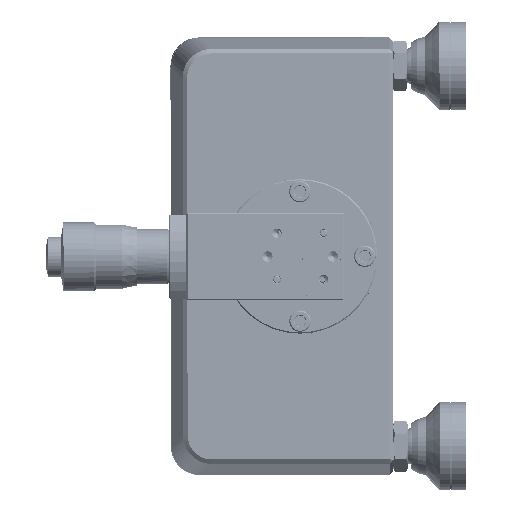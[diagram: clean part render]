
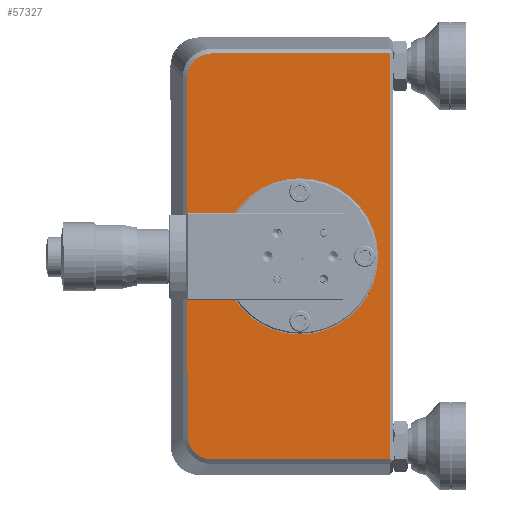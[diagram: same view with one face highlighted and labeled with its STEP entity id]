
A CAD part, left-side view. The second image highlights one B-rep face of the part: STEP entity #57327.
In plain terms, the highlighted planar face has unit normal (-1, -0.002, -0.001).
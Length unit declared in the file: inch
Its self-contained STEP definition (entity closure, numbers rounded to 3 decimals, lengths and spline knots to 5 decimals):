
#6030 = CARTESIAN_POINT ( 'NONE',  ( -0.09451, -6.66181, -1.31774 ) ) ;
#6185 = DIRECTION ( 'NONE',  ( -0.002, 1., -0.001 ) ) ;
#9307 = DIRECTION ( 'NONE',  ( -1., -0.002, -0.001 ) ) ;
#11480 = CARTESIAN_POINT ( 'NONE',  ( -0.09532, -6.68593, 0.31891 ) ) ;
#14881 = CARTESIAN_POINT ( 'NONE',  ( -0.09532, -6.65979, 0.24096 ) ) ;
#18027 = CIRCLE ( 'NONE', #209111, 0.67 ) ;
#18179 = AXIS2_PLACEMENT_3D ( 'NONE', #111873, #9307, #315442 ) ;
#22230 = EDGE_LOOP ( 'NONE', ( #308823, #257947 ) ) ;
#25196 = CARTESIAN_POINT ( 'NONE',  ( -0.09089, -8.39914, -3.05557 ) ) ;
#32054 = DIRECTION ( 'NONE',  ( 1., 0.002, 0.001 ) ) ;
#34291 = DIRECTION ( 'NONE',  ( -0.001, 0.001, 1. ) ) ;
#40050 = CIRCLE ( 'NONE', #18179, 0.67 ) ;
#40489 = CARTESIAN_POINT ( 'NONE',  ( -0.09533, -6.66519, 0.26841 ) ) ;
#40699 = VERTEX_POINT ( 'NONE', #206312 ) ;
#54523 = CARTESIAN_POINT ( 'NONE',  ( -0.09372, -6.6638, -2.8489 ) ) ;
#54963 = EDGE_CURVE ( 'NONE', #165470, #283098, #295039, .T. ) ;
#56577 = CARTESIAN_POINT ( 'NONE',  ( -0.0918, -8.39689, -1.31549 ) ) ;
#57327 = ADVANCED_FACE ( 'NONE', ( #81655, #80001 ), #269921, .F. ) ;
#67875 = CARTESIAN_POINT ( 'NONE',  ( -0.09509, -6.86848, 0.42261 ) ) ;
#72476 = CARTESIAN_POINT ( 'NONE',  ( -0.09266, -7.62776, -1.98649 ) ) ;
#74966 = VERTEX_POINT ( 'NONE', #117696 ) ;
#80001 = FACE_BOUND ( 'NONE', #22230, .T. ) ;
#80200 = CARTESIAN_POINT ( 'NONE',  ( -0.09368, -6.6693, -2.90388 ) ) ;
#81655 = FACE_OUTER_BOUND ( 'NONE', #255556, .T. ) ;
#83075 = EDGE_CURVE ( 'NONE', #74966, #165470, #145648, .T. ) ;
#83541 = CARTESIAN_POINT ( 'NONE',  ( -0.0937, -6.66383, -2.87638 ) ) ;
#85980 = CARTESIAN_POINT ( 'NONE',  ( -0.09531, -6.65983, 0.21342 ) ) ;
#91770 = CARTESIAN_POINT ( 'NONE',  ( -0.09514, -6.84099, 0.42257 ) ) ;
#105694 = CARTESIAN_POINT ( 'NONE',  ( -0.09324, -7.47689, -1.31668 ) ) ;
#110052 = B_SPLINE_CURVE_WITH_KNOTS ( 'NONE', 3,
 ( #54523, #83541, #80200, #314504, #160546, #187919, #136528, #158837, #292320, #110915 ),
 .UNSPECIFIED., .F., .F.,
 ( 4, 2, 2, 2, 4 ),
 ( 0., 0.25, 0.5, 0.75, 1. ),
 .UNSPECIFIED. ) ;
#110915 = CARTESIAN_POINT ( 'NONE',  ( -0.09328, -6.87299, -3.05755 ) ) ;
#111873 = CARTESIAN_POINT ( 'NONE',  ( -0.093, -7.62689, -1.31649 ) ) ;
#112756 = VECTOR ( 'NONE', #333080, 39.37008 ) ;
#117644 = EDGE_CURVE ( 'NONE', #40699, #318909, #40050, .T. ) ;
#117696 = CARTESIAN_POINT ( 'NONE',  ( -0.09509, -6.86848, 0.42261 ) ) ;
#119415 = CARTESIAN_POINT ( 'NONE',  ( -0.09233, -7.47915, -3.05676 ) ) ;
#124481 = LINE ( 'NONE', #119415, #112756 ) ;
#132113 = EDGE_CURVE ( 'NONE', #235308, #336761, #241410, .T. ) ;
#136528 = CARTESIAN_POINT ( 'NONE',  ( -0.09346, -6.7675, -3.03145 ) ) ;
#136662 = ORIENTED_EDGE ( 'NONE', *, *, #132113, .T. ) ;
#138957 = ORIENTED_EDGE ( 'NONE', *, *, #83075, .T. ) ;
#142388 = VERTEX_POINT ( 'NONE', #187947 ) ;
#145648 = B_SPLINE_CURVE_WITH_KNOTS ( 'NONE', 3,
 ( #67875, #91770, #197812, #172069, #303815, #245916, #11480, #40489, #14881, #324406 ),
 .UNSPECIFIED., .F., .F.,
 ( 4, 2, 2, 2, 4 ),
 ( 0., 0.25, 0.5, 0.75, 1. ),
 .UNSPECIFIED. ) ;
#158837 = CARTESIAN_POINT ( 'NONE',  ( -0.09337, -6.81799, -3.05219 ) ) ;
#160546 = CARTESIAN_POINT ( 'NONE',  ( -0.09358, -6.70569, -2.97754 ) ) ;
#165470 = VERTEX_POINT ( 'NONE', #85980 ) ;
#172069 = CARTESIAN_POINT ( 'NONE',  ( -0.09524, -6.76305, 0.39624 ) ) ;
#179794 = ORIENTED_EDGE ( 'NONE', *, *, #212931, .T. ) ;
#187288 = DIRECTION ( 'NONE',  ( 0.001, -0.001, -1. ) ) ;
#187449 = LINE ( 'NONE', #240596, #274338 ) ;
#187919 = CARTESIAN_POINT ( 'NONE',  ( -0.0935, -6.74424, -3.01599 ) ) ;
#187947 = CARTESIAN_POINT ( 'NONE',  ( -0.09328, -6.87299, -3.05755 ) ) ;
#197812 = CARTESIAN_POINT ( 'NONE',  ( -0.09518, -6.8135, 0.4171 ) ) ;
#199175 = VECTOR ( 'NONE', #34291, 39.37008 ) ;
#200773 = DIRECTION ( 'NONE',  ( -0.001, 0.001, 1. ) ) ;
#206312 = CARTESIAN_POINT ( 'NONE',  ( -0.09335, -7.62602, -0.64649 ) ) ;
#209111 = AXIS2_PLACEMENT_3D ( 'NONE', #226517, #330766, #200773 ) ;
#210679 = EDGE_CURVE ( 'NONE', #318909, #40699, #18027, .T. ) ;
#212931 = EDGE_CURVE ( 'NONE', #283098, #142388, #110052, .T. ) ;
#226517 = CARTESIAN_POINT ( 'NONE',  ( -0.093, -7.62689, -1.31649 ) ) ;
#235308 = VERTEX_POINT ( 'NONE', #25196 ) ;
#238132 = EDGE_CURVE ( 'NONE', #336761, #74966, #187449, .T. ) ;
#240596 = CARTESIAN_POINT ( 'NONE',  ( -0.09414, -7.47463, 0.42339 ) ) ;
#241410 = LINE ( 'NONE', #56577, #199175 ) ;
#245916 = CARTESIAN_POINT ( 'NONE',  ( -0.09531, -6.70138, 0.34217 ) ) ;
#255556 = EDGE_LOOP ( 'NONE', ( #179794, #290488, #136662, #328977, #138957, #333965 ) ) ;
#257947 = ORIENTED_EDGE ( 'NONE', *, *, #210679, .F. ) ;
#262408 = AXIS2_PLACEMENT_3D ( 'NONE', #105694, #32054, #263129 ) ;
#263129 = DIRECTION ( 'NONE',  ( 0.001, -0.001, -1. ) ) ;
#269921 = PLANE ( 'NONE',  #262408 ) ;
#274338 = VECTOR ( 'NONE', #6185, 39.37008 ) ;
#283098 = VERTEX_POINT ( 'NONE', #314830 ) ;
#290488 = ORIENTED_EDGE ( 'NONE', *, *, #333983, .T. ) ;
#292320 = CARTESIAN_POINT ( 'NONE',  ( -0.09332, -6.84545, -3.05758 ) ) ;
#295039 = LINE ( 'NONE', #6030, #311098 ) ;
#303815 = CARTESIAN_POINT ( 'NONE',  ( -0.09527, -6.73984, 0.38072 ) ) ;
#308823 = ORIENTED_EDGE ( 'NONE', *, *, #117644, .F. ) ;
#311098 = VECTOR ( 'NONE', #187288, 39.37008 ) ;
#311804 = CARTESIAN_POINT ( 'NONE',  ( -0.09271, -8.39463, 0.42459 ) ) ;
#314504 = CARTESIAN_POINT ( 'NONE',  ( -0.09362, -6.69017, -2.95432 ) ) ;
#314830 = CARTESIAN_POINT ( 'NONE',  ( -0.09372, -6.6638, -2.8489 ) ) ;
#315442 = DIRECTION ( 'NONE',  ( -0.001, 0.001, 1. ) ) ;
#318909 = VERTEX_POINT ( 'NONE', #72476 ) ;
#324406 = CARTESIAN_POINT ( 'NONE',  ( -0.09531, -6.65983, 0.21342 ) ) ;
#328977 = ORIENTED_EDGE ( 'NONE', *, *, #238132, .T. ) ;
#330766 = DIRECTION ( 'NONE',  ( -1., -0.002, -0.001 ) ) ;
#333080 = DIRECTION ( 'NONE',  ( 0.002, -1., 0.001 ) ) ;
#333965 = ORIENTED_EDGE ( 'NONE', *, *, #54963, .T. ) ;
#333983 = EDGE_CURVE ( 'NONE', #142388, #235308, #124481, .T. ) ;
#336761 = VERTEX_POINT ( 'NONE', #311804 ) ;
